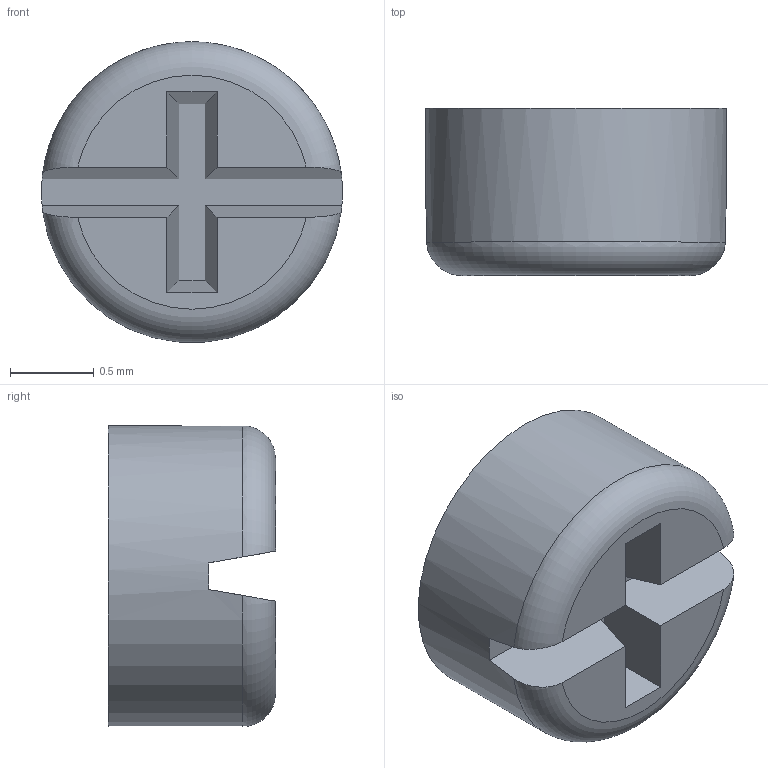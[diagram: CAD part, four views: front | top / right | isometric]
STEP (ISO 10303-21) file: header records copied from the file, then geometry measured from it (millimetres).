
FILE_DESCRIPTION(/* description */ ('STEP AP242 Edition 2','CAx-IF Rec.Pracs.---Representation and Presentation of Product Manufacturing Information (PMI)---4.0---2014-10-13','CAx-IF Rec.Pracs.---3D Tessellated Geometry---0.4---2014-09-14','2;1','CAx-IF Rec.Pracs.---User Defined Attributes---1.5---2016-08-15'),/* implementation_level */ '2;1');
FILE_NAME(/* name */ '39920f20-d555-4845-8299-3b7ea8dc74b3',/* time_stamp */ '2026-11-04T05:15:28Z',/* author */ (''),/* organization */ (''),/* preprocessor_version */ 'ST-DEVELOPER v20',/* originating_system */ 'ONSHAPE BY PTC INC, 1.223',/* authorisation */ ' ');
FILE_SCHEMA (('AP242_MANAGED_MODEL_BASED_3D_ENGINEERING_MIM_LF { 1 0 10303 442 3 1 4 }'));
Length unit declared in the file: metre
Products named in the file (1): SG90 - Micro Servo 9g - Tower Pro.1_Pe‡a
Bounding box: 1.8 x 1 x 1.8 mm (x, y, z)
Volume: 2.3 mm3; surface area: 11.9 mm2
Topology: 1 solids, 1 shells, 17 faces, 45 edges, 30 vertices
Faces by surface type: plane 14, torus 2, cylinder 1
Full cylindrical faces by diameter (mm): 1.8 x1
Entity records: 662 total; most frequent: CARTESIAN_POINT 102, ORIENTED_EDGE 86, DIRECTION 86, EDGE_CURVE 43, VERTEX_POINT 29, AXIS2_PLACEMENT_3D 29, LINE 28, VECTOR 28
